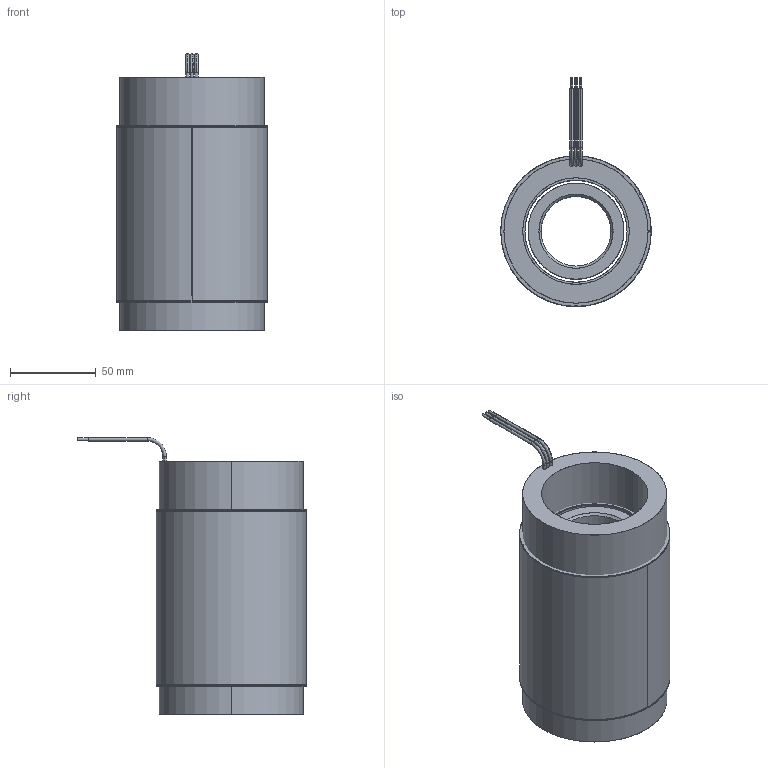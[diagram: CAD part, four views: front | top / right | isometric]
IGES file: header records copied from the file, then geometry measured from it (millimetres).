
Start section: SolidWorks IGES file using analytic representation for surfaces
Global section: file name: \\fs01.aveox.local\user documents\eng\My Documents\STANDARD STATOR ROTOR SETS\Standard rotor and stator set released\3.45 inch stator diameter\6100253-05.IGS; native system: SolidWorks 2016; preprocessor: SolidWorks 2016; author: eng; date: 191111.092132; units: millimetre
Bounding box: 87.63 x 133.34 x 161.29 mm (x, y, z)
Surface area: 186689 mm2 (no closed solid volume)
Topology: 0 solids, 0 shells, 91 faces, 2424 edges, 2424 vertices
Faces by surface type: revolution 65, bspline 26
